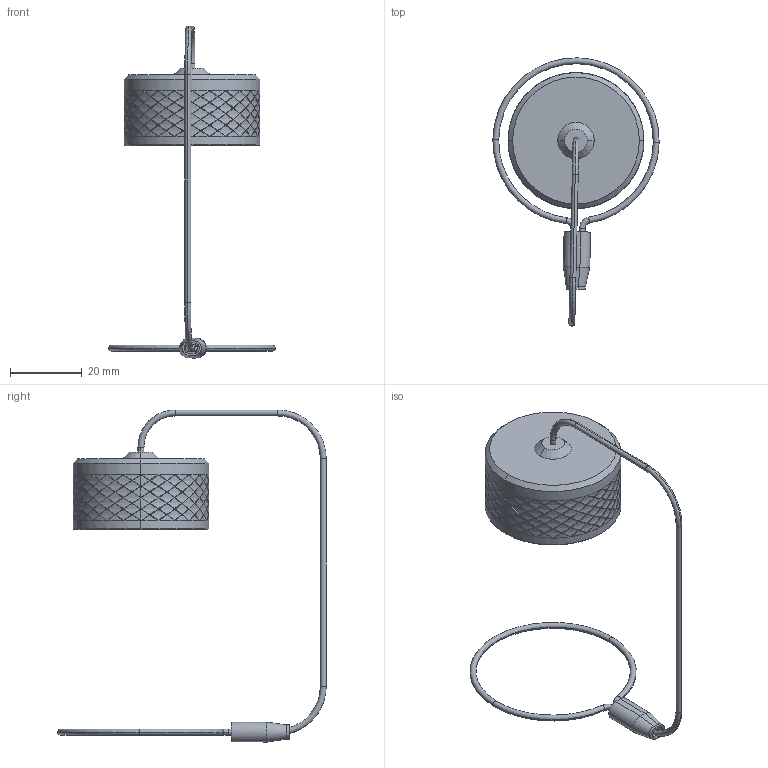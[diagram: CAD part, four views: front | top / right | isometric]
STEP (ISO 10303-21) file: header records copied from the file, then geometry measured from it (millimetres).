
FILE_DESCRIPTION (( 'STEP AP214' ), '1' );
FILE_NAME ('QPLEX3-DCRX.STEP', '2025-04-07T17:50:59', ( '' ), ( '' ), 'SwSTEP 2.0', 'SolidWorks 2024', '' );
FILE_SCHEMA (( 'AUTOMOTIVE_DESIGN' ));
Length unit declared in the file: inch
Products named in the file (1): QPLEX3-DCRX
Bounding box: 46.34 x 74.78 x 92.48 mm (x, y, z)
Volume: 12730 mm3; surface area: 8490.4 mm2
Topology: 3 solids, 3 shells, 843 faces, 2270 edges, 1437 vertices
Faces by surface type: bspline 438, cylinder 263, plane 119, torus 16, cone 7
Entity records: 36009 total; most frequent: CARTESIAN_POINT 20506, ORIENTED_EDGE 4540, EDGE_CURVE 2270, DIRECTION 1477, VERTEX_POINT 1437, B_SPLINE_CURVE_WITH_KNOTS 1316, EDGE_LOOP 851, ADVANCED_FACE 843
